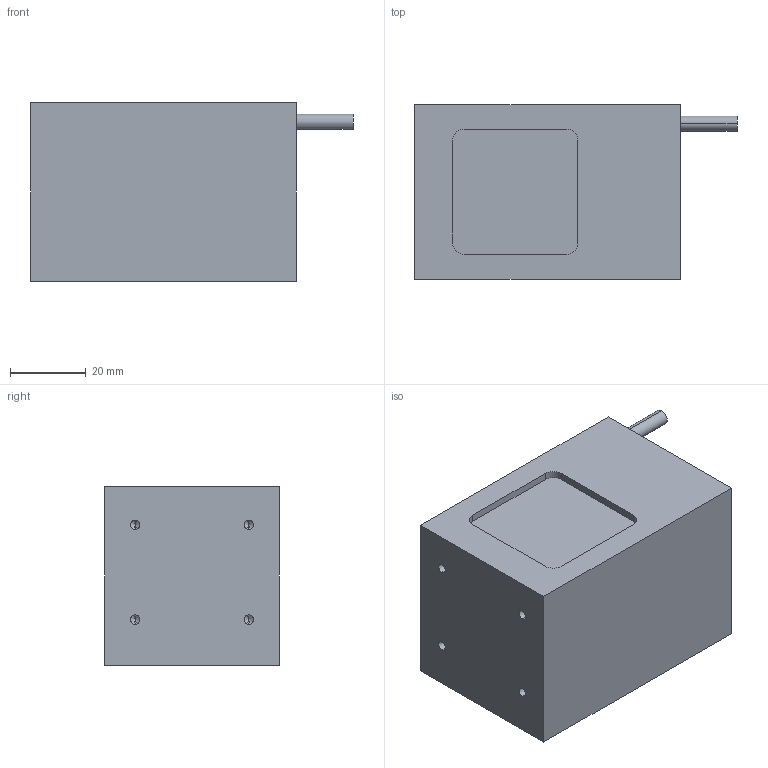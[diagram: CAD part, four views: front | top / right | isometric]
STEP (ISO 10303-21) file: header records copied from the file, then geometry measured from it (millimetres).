
FILE_DESCRIPTION (( 'STEP AP203' ), '1' );
FILE_NAME ('CRT-COL40-¼òÒ×3DÍ¼.STEP', '2022-01-07T06:33:46', ( 'Admin' ), ( '' ), 'SwSTEP 2.0', 'SolidWorks 2018', '' );
FILE_SCHEMA (( 'CONFIG_CONTROL_DESIGN' ));
Length unit declared in the file: millimetre
Products named in the file (1): CRT-COL40-潠眢3D芞
Bounding box: 85 x 46 x 47 mm (x, y, z)
Volume: 146176.1 mm3; surface area: 18446.3 mm2
Topology: 1 solids, 1 shells, 55 faces, 134 edges, 76 vertices
Faces by surface type: cylinder 22, plane 17, cone 16
Entity records: 1569 total; most frequent: DIRECTION 274, CARTESIAN_POINT 250, ORIENTED_EDGE 236, EDGE_CURVE 118, AXIS2_PLACEMENT_3D 100, VERTEX_POINT 76, LINE 74, VECTOR 74
